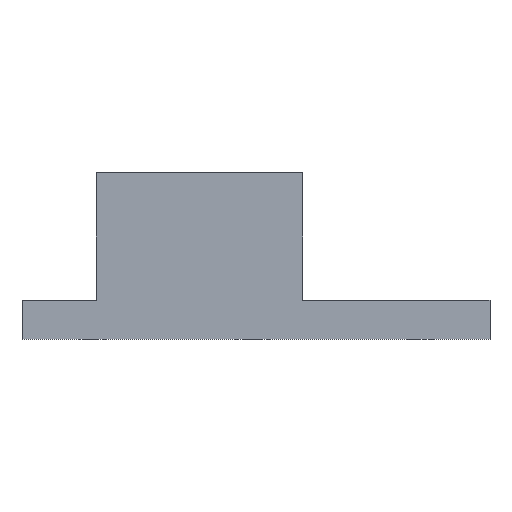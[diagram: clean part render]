
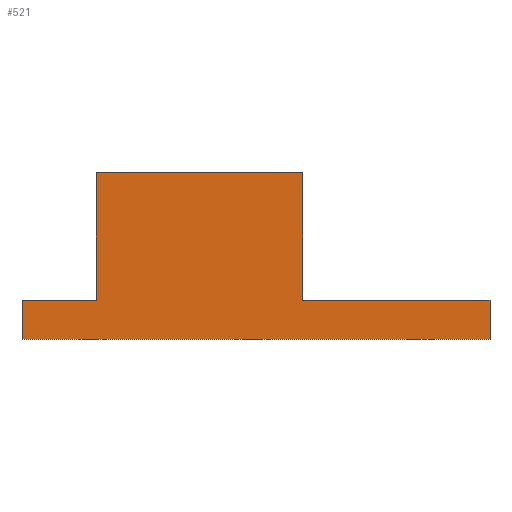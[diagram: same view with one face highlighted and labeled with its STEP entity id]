
A CAD part, front view. The second image highlights one B-rep face of the part: STEP entity #521.
In plain terms, the highlighted planar face has unit normal (0, -1, 0).
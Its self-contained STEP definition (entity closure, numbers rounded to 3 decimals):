
#32 = PLANE('',#33);
#33 = AXIS2_PLACEMENT_3D('',#34,#35,#36);
#34 = CARTESIAN_POINT('',(30.,-64.,-124.04));
#35 = DIRECTION('',(-1.,0.,0.));
#36 = DIRECTION('',(0.,0.,1.));
#57 = VERTEX_POINT('',#58);
#58 = CARTESIAN_POINT('',(30.,-86.,-124.04));
#72 = PLANE('',#73);
#73 = AXIS2_PLACEMENT_3D('',#74,#75,#76);
#74 = CARTESIAN_POINT('',(30.,-64.,-124.04));
#75 = DIRECTION('',(0.,0.,1.));
#76 = DIRECTION('',(-1.,0.,0.));
#84 = EDGE_CURVE('',#57,#85,#87,.T.);
#85 = VERTEX_POINT('',#86);
#86 = CARTESIAN_POINT('',(30.,-86.,-119.04));
#87 = SURFACE_CURVE('',#88,(#92,#99),.PCURVE_S1.);
#88 = LINE('',#89,#90);
#89 = CARTESIAN_POINT('',(30.,-86.,-124.04));
#90 = VECTOR('',#91,1.);
#91 = DIRECTION('',(0.,0.,1.));
#92 = PCURVE('',#32,#93);
#93 = DEFINITIONAL_REPRESENTATION('',(#94),#98);
#94 = LINE('',#95,#96);
#95 = CARTESIAN_POINT('',(0.,-22.));
#96 = VECTOR('',#97,1.);
#97 = DIRECTION('',(1.,0.));
#98 = ( GEOMETRIC_REPRESENTATION_CONTEXT(2) 
PARAMETRIC_REPRESENTATION_CONTEXT() REPRESENTATION_CONTEXT('2D SPACE',''
  ) );
#99 = PCURVE('',#100,#105);
#100 = PLANE('',#101);
#101 = AXIS2_PLACEMENT_3D('',#102,#103,#104);
#102 = CARTESIAN_POINT('',(30.,-86.,-124.04));
#103 = DIRECTION('',(0.,-1.,0.));
#104 = DIRECTION('',(0.,0.,1.));
#105 = DEFINITIONAL_REPRESENTATION('',(#106),#110);
#106 = LINE('',#107,#108);
#107 = CARTESIAN_POINT('',(0.,0.));
#108 = VECTOR('',#109,1.);
#109 = DIRECTION('',(1.,0.));
#110 = ( GEOMETRIC_REPRESENTATION_CONTEXT(2) 
PARAMETRIC_REPRESENTATION_CONTEXT() REPRESENTATION_CONTEXT('2D SPACE',''
  ) );
#126 = PLANE('',#127);
#127 = AXIS2_PLACEMENT_3D('',#128,#129,#130);
#128 = CARTESIAN_POINT('',(30.,-64.,-119.04));
#129 = DIRECTION('',(0.,0.,1.));
#130 = DIRECTION('',(-1.,0.,0.));
#204 = PLANE('',#205);
#205 = AXIS2_PLACEMENT_3D('',#206,#207,#208);
#206 = CARTESIAN_POINT('',(6.,-64.,-119.04));
#207 = DIRECTION('',(-1.,0.,0.));
#208 = DIRECTION('',(0.,0.,1.));
#232 = PLANE('',#233);
#233 = AXIS2_PLACEMENT_3D('',#234,#235,#236);
#234 = CARTESIAN_POINT('',(6.,-64.,-102.64));
#235 = DIRECTION('',(0.,0.,1.));
#236 = DIRECTION('',(-1.,0.,0.));
#372 = PLANE('',#373);
#373 = AXIS2_PLACEMENT_3D('',#374,#375,#376);
#374 = CARTESIAN_POINT('',(-20.5,-64.,-119.04));
#375 = DIRECTION('',(-1.,0.,0.));
#376 = DIRECTION('',(0.,0.,1.));
#400 = PLANE('',#401);
#401 = AXIS2_PLACEMENT_3D('',#402,#403,#404);
#402 = CARTESIAN_POINT('',(30.,-64.,-119.04));
#403 = DIRECTION('',(0.,0.,1.));
#404 = DIRECTION('',(-1.,0.,0.));
#426 = PLANE('',#427);
#427 = AXIS2_PLACEMENT_3D('',#428,#429,#430);
#428 = CARTESIAN_POINT('',(-30.,-64.,-124.04));
#429 = DIRECTION('',(-1.,0.,0.));
#430 = DIRECTION('',(0.,0.,1.));
#441 = EDGE_CURVE('',#85,#442,#444,.T.);
#442 = VERTEX_POINT('',#443);
#443 = CARTESIAN_POINT('',(6.,-86.,-119.04));
#444 = SURFACE_CURVE('',#445,(#449,#456),.PCURVE_S1.);
#445 = LINE('',#446,#447);
#446 = CARTESIAN_POINT('',(30.,-86.,-119.04));
#447 = VECTOR('',#448,1.);
#448 = DIRECTION('',(-1.,0.,0.));
#449 = PCURVE('',#126,#450);
#450 = DEFINITIONAL_REPRESENTATION('',(#451),#455);
#451 = LINE('',#452,#453);
#452 = CARTESIAN_POINT('',(0.,22.));
#453 = VECTOR('',#454,1.);
#454 = DIRECTION('',(1.,0.));
#455 = ( GEOMETRIC_REPRESENTATION_CONTEXT(2) 
PARAMETRIC_REPRESENTATION_CONTEXT() REPRESENTATION_CONTEXT('2D SPACE',''
  ) );
#456 = PCURVE('',#100,#457);
#457 = DEFINITIONAL_REPRESENTATION('',(#458),#462);
#458 = LINE('',#459,#460);
#459 = CARTESIAN_POINT('',(5.,0.));
#460 = VECTOR('',#461,1.);
#461 = DIRECTION('',(0.,1.));
#462 = ( GEOMETRIC_REPRESENTATION_CONTEXT(2) 
PARAMETRIC_REPRESENTATION_CONTEXT() REPRESENTATION_CONTEXT('2D SPACE',''
  ) );
#521 = ADVANCED_FACE('',(#522),#100,.T.);
#522 = FACE_BOUND('',#523,.T.);
#523 = EDGE_LOOP('',(#524,#547,#548,#549,#572,#595,#618,#641));
#524 = ORIENTED_EDGE('',*,*,#525,.F.);
#525 = EDGE_CURVE('',#57,#526,#528,.T.);
#526 = VERTEX_POINT('',#527);
#527 = CARTESIAN_POINT('',(-30.,-86.,-124.04));
#528 = SURFACE_CURVE('',#529,(#533,#540),.PCURVE_S1.);
#529 = LINE('',#530,#531);
#530 = CARTESIAN_POINT('',(30.,-86.,-124.04));
#531 = VECTOR('',#532,1.);
#532 = DIRECTION('',(-1.,0.,0.));
#533 = PCURVE('',#100,#534);
#534 = DEFINITIONAL_REPRESENTATION('',(#535),#539);
#535 = LINE('',#536,#537);
#536 = CARTESIAN_POINT('',(0.,0.));
#537 = VECTOR('',#538,1.);
#538 = DIRECTION('',(0.,1.));
#539 = ( GEOMETRIC_REPRESENTATION_CONTEXT(2) 
PARAMETRIC_REPRESENTATION_CONTEXT() REPRESENTATION_CONTEXT('2D SPACE',''
  ) );
#540 = PCURVE('',#72,#541);
#541 = DEFINITIONAL_REPRESENTATION('',(#542),#546);
#542 = LINE('',#543,#544);
#543 = CARTESIAN_POINT('',(0.,22.));
#544 = VECTOR('',#545,1.);
#545 = DIRECTION('',(1.,0.));
#546 = ( GEOMETRIC_REPRESENTATION_CONTEXT(2) 
PARAMETRIC_REPRESENTATION_CONTEXT() REPRESENTATION_CONTEXT('2D SPACE',''
  ) );
#547 = ORIENTED_EDGE('',*,*,#84,.T.);
#548 = ORIENTED_EDGE('',*,*,#441,.T.);
#549 = ORIENTED_EDGE('',*,*,#550,.T.);
#550 = EDGE_CURVE('',#442,#551,#553,.T.);
#551 = VERTEX_POINT('',#552);
#552 = CARTESIAN_POINT('',(6.,-86.,-102.64));
#553 = SURFACE_CURVE('',#554,(#558,#565),.PCURVE_S1.);
#554 = LINE('',#555,#556);
#555 = CARTESIAN_POINT('',(6.,-86.,-119.04));
#556 = VECTOR('',#557,1.);
#557 = DIRECTION('',(0.,0.,1.));
#558 = PCURVE('',#100,#559);
#559 = DEFINITIONAL_REPRESENTATION('',(#560),#564);
#560 = LINE('',#561,#562);
#561 = CARTESIAN_POINT('',(5.,24.));
#562 = VECTOR('',#563,1.);
#563 = DIRECTION('',(1.,0.));
#564 = ( GEOMETRIC_REPRESENTATION_CONTEXT(2) 
PARAMETRIC_REPRESENTATION_CONTEXT() REPRESENTATION_CONTEXT('2D SPACE',''
  ) );
#565 = PCURVE('',#204,#566);
#566 = DEFINITIONAL_REPRESENTATION('',(#567),#571);
#567 = LINE('',#568,#569);
#568 = CARTESIAN_POINT('',(0.,-22.));
#569 = VECTOR('',#570,1.);
#570 = DIRECTION('',(1.,0.));
#571 = ( GEOMETRIC_REPRESENTATION_CONTEXT(2) 
PARAMETRIC_REPRESENTATION_CONTEXT() REPRESENTATION_CONTEXT('2D SPACE',''
  ) );
#572 = ORIENTED_EDGE('',*,*,#573,.F.);
#573 = EDGE_CURVE('',#574,#551,#576,.T.);
#574 = VERTEX_POINT('',#575);
#575 = CARTESIAN_POINT('',(-20.5,-86.,-102.64));
#576 = SURFACE_CURVE('',#577,(#581,#588),.PCURVE_S1.);
#577 = LINE('',#578,#579);
#578 = CARTESIAN_POINT('',(-20.5,-86.,-102.64));
#579 = VECTOR('',#580,1.);
#580 = DIRECTION('',(1.,0.,0.));
#581 = PCURVE('',#100,#582);
#582 = DEFINITIONAL_REPRESENTATION('',(#583),#587);
#583 = LINE('',#584,#585);
#584 = CARTESIAN_POINT('',(21.4,50.5));
#585 = VECTOR('',#586,1.);
#586 = DIRECTION('',(0.,-1.));
#587 = ( GEOMETRIC_REPRESENTATION_CONTEXT(2) 
PARAMETRIC_REPRESENTATION_CONTEXT() REPRESENTATION_CONTEXT('2D SPACE',''
  ) );
#588 = PCURVE('',#232,#589);
#589 = DEFINITIONAL_REPRESENTATION('',(#590),#594);
#590 = LINE('',#591,#592);
#591 = CARTESIAN_POINT('',(26.5,22.));
#592 = VECTOR('',#593,1.);
#593 = DIRECTION('',(-1.,0.));
#594 = ( GEOMETRIC_REPRESENTATION_CONTEXT(2) 
PARAMETRIC_REPRESENTATION_CONTEXT() REPRESENTATION_CONTEXT('2D SPACE',''
  ) );
#595 = ORIENTED_EDGE('',*,*,#596,.F.);
#596 = EDGE_CURVE('',#597,#574,#599,.T.);
#597 = VERTEX_POINT('',#598);
#598 = CARTESIAN_POINT('',(-20.5,-86.,-119.04));
#599 = SURFACE_CURVE('',#600,(#604,#611),.PCURVE_S1.);
#600 = LINE('',#601,#602);
#601 = CARTESIAN_POINT('',(-20.5,-86.,-119.04));
#602 = VECTOR('',#603,1.);
#603 = DIRECTION('',(0.,0.,1.));
#604 = PCURVE('',#100,#605);
#605 = DEFINITIONAL_REPRESENTATION('',(#606),#610);
#606 = LINE('',#607,#608);
#607 = CARTESIAN_POINT('',(5.,50.5));
#608 = VECTOR('',#609,1.);
#609 = DIRECTION('',(1.,0.));
#610 = ( GEOMETRIC_REPRESENTATION_CONTEXT(2) 
PARAMETRIC_REPRESENTATION_CONTEXT() REPRESENTATION_CONTEXT('2D SPACE',''
  ) );
#611 = PCURVE('',#372,#612);
#612 = DEFINITIONAL_REPRESENTATION('',(#613),#617);
#613 = LINE('',#614,#615);
#614 = CARTESIAN_POINT('',(0.,-22.));
#615 = VECTOR('',#616,1.);
#616 = DIRECTION('',(1.,0.));
#617 = ( GEOMETRIC_REPRESENTATION_CONTEXT(2) 
PARAMETRIC_REPRESENTATION_CONTEXT() REPRESENTATION_CONTEXT('2D SPACE',''
  ) );
#618 = ORIENTED_EDGE('',*,*,#619,.T.);
#619 = EDGE_CURVE('',#597,#620,#622,.T.);
#620 = VERTEX_POINT('',#621);
#621 = CARTESIAN_POINT('',(-30.,-86.,-119.04));
#622 = SURFACE_CURVE('',#623,(#627,#634),.PCURVE_S1.);
#623 = LINE('',#624,#625);
#624 = CARTESIAN_POINT('',(30.,-86.,-119.04));
#625 = VECTOR('',#626,1.);
#626 = DIRECTION('',(-1.,0.,0.));
#627 = PCURVE('',#100,#628);
#628 = DEFINITIONAL_REPRESENTATION('',(#629),#633);
#629 = LINE('',#630,#631);
#630 = CARTESIAN_POINT('',(5.,0.));
#631 = VECTOR('',#632,1.);
#632 = DIRECTION('',(0.,1.));
#633 = ( GEOMETRIC_REPRESENTATION_CONTEXT(2) 
PARAMETRIC_REPRESENTATION_CONTEXT() REPRESENTATION_CONTEXT('2D SPACE',''
  ) );
#634 = PCURVE('',#400,#635);
#635 = DEFINITIONAL_REPRESENTATION('',(#636),#640);
#636 = LINE('',#637,#638);
#637 = CARTESIAN_POINT('',(0.,22.));
#638 = VECTOR('',#639,1.);
#639 = DIRECTION('',(1.,0.));
#640 = ( GEOMETRIC_REPRESENTATION_CONTEXT(2) 
PARAMETRIC_REPRESENTATION_CONTEXT() REPRESENTATION_CONTEXT('2D SPACE',''
  ) );
#641 = ORIENTED_EDGE('',*,*,#642,.F.);
#642 = EDGE_CURVE('',#526,#620,#643,.T.);
#643 = SURFACE_CURVE('',#644,(#648,#655),.PCURVE_S1.);
#644 = LINE('',#645,#646);
#645 = CARTESIAN_POINT('',(-30.,-86.,-124.04));
#646 = VECTOR('',#647,1.);
#647 = DIRECTION('',(0.,0.,1.));
#648 = PCURVE('',#100,#649);
#649 = DEFINITIONAL_REPRESENTATION('',(#650),#654);
#650 = LINE('',#651,#652);
#651 = CARTESIAN_POINT('',(0.,60.));
#652 = VECTOR('',#653,1.);
#653 = DIRECTION('',(1.,0.));
#654 = ( GEOMETRIC_REPRESENTATION_CONTEXT(2) 
PARAMETRIC_REPRESENTATION_CONTEXT() REPRESENTATION_CONTEXT('2D SPACE',''
  ) );
#655 = PCURVE('',#426,#656);
#656 = DEFINITIONAL_REPRESENTATION('',(#657),#661);
#657 = LINE('',#658,#659);
#658 = CARTESIAN_POINT('',(0.,-22.));
#659 = VECTOR('',#660,1.);
#660 = DIRECTION('',(1.,0.));
#661 = ( GEOMETRIC_REPRESENTATION_CONTEXT(2) 
PARAMETRIC_REPRESENTATION_CONTEXT() REPRESENTATION_CONTEXT('2D SPACE',''
  ) );
